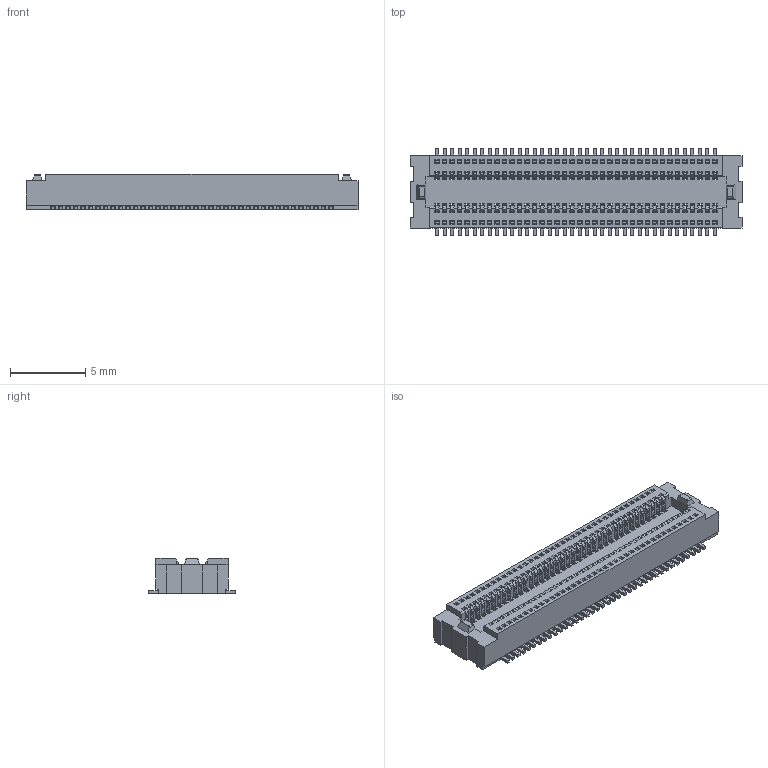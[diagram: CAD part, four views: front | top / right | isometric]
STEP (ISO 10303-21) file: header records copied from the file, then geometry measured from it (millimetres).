
FILE_DESCRIPTION(('CATIA V5 STEP Exchange'),'2;1');
FILE_NAME('F:\黄富鸿\板对板\0.5 单槽\无柱\母座\H2.35\HC-PBB05-1-76-F-H2.35-G1-R-06 (BTB0.5 单槽 母座 立贴 编带)-HCTL.stp','2026-01-20T09:41:54+00:00',('none'),('none'),'CATIA Version 5 Release 20 GA (IN-10)','CATIA V5 STEP AP203','none');
FILE_SCHEMA(('CONFIG_CONTROL_DESIGN'));
Products named in the file (1): Part2
Bounding box: 22.1 x 5.76 x 2.35 mm (x, y, z)
Volume: 161.8 mm3; surface area: 1184.7 mm2
Topology: 77 solids, 77 shells, 3398 faces, 10412 edges, 6940 vertices
Faces by surface type: plane 2330, cylinder 1068
Entity records: 98644 total; most frequent: ORIENTED_EDGE 20824, CARTESIAN_POINT 17685, DIRECTION 10912, EDGE_CURVE 10412, VECTOR 8276, LINE 8276, VERTEX_POINT 6940, EDGE_LOOP 3474
